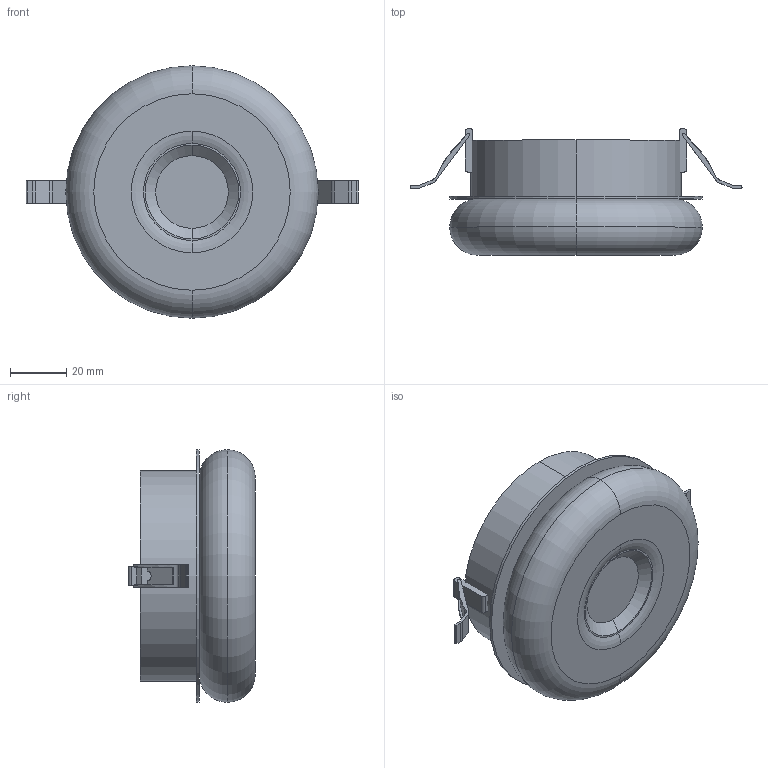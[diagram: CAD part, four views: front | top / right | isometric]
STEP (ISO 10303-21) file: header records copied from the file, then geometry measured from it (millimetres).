
FILE_DESCRIPTION (( 'STEP AP214' ), '1' );
FILE_NAME ('MART_1.STEP', '2026-02-06T16:20:45', ( '' ), ( '' ), 'SwSTEP 2.0', 'SolidWorks 2023', '' );
FILE_SCHEMA (( 'AUTOMOTIVE_DESIGN' ));
Length unit declared in the file: millimetre
Products named in the file (3): floron_empotrable; MART_1; marmol Arq
Assembly tree (2 placements, depth 2):
  MART_1
    floron_empotrable
    marmol Arq
Bounding box: 118.33 x 45.1 x 90 mm (x, y, z)
Volume: 132062.9 mm3; surface area: 39738.1 mm2
Topology: 6 solids, 6 shells, 100 faces, 248 edges, 164 vertices
Faces by surface type: plane 56, cylinder 34, torus 6, bspline 2, cone 2
Entity records: 3172 total; most frequent: CARTESIAN_POINT 587, DIRECTION 538, ORIENTED_EDGE 496, EDGE_CURVE 248, AXIS2_PLACEMENT_3D 195, VERTEX_POINT 164, LINE 148, VECTOR 148
